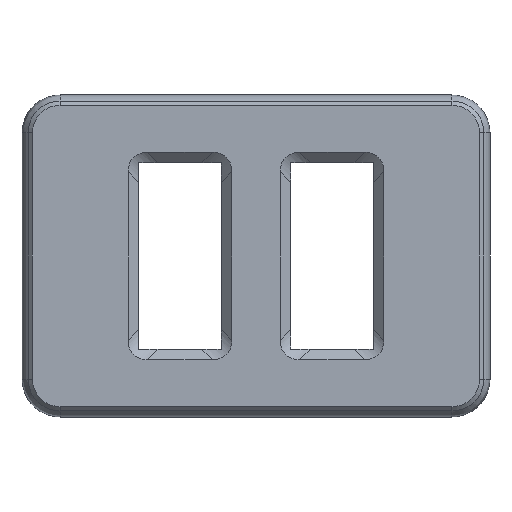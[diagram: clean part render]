
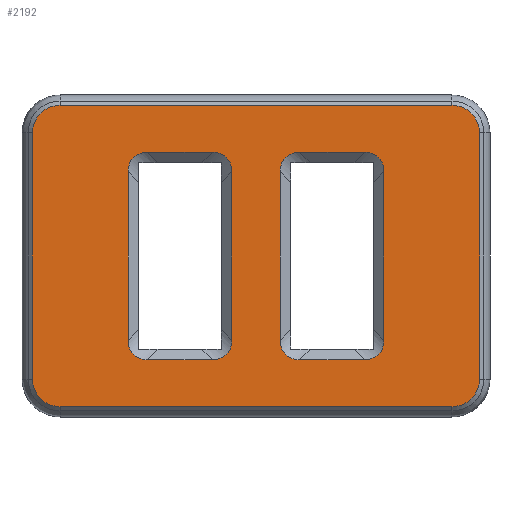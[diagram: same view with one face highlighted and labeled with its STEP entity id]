
A CAD part, front view. The second image highlights one B-rep face of the part: STEP entity #2192.
In plain terms, the highlighted planar face has unit normal (0, -1, 0).
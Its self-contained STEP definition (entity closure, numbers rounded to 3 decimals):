
#31=FACE_BOUND('',#307,.T.);
#32=FACE_BOUND('',#308,.T.);
#36=CIRCLE('',#2354,2.);
#37=CIRCLE('',#2355,2.);
#38=CIRCLE('',#2356,2.);
#39=CIRCLE('',#2357,2.);
#86=PLANE('',#2353);
#181=FACE_OUTER_BOUND('',#306,.T.);
#306=EDGE_LOOP('',(#1552,#1553,#1554,#1555,#1556,#1557,#1558,#1559));
#307=EDGE_LOOP('',(#1560,#1561,#1562,#1563,#1564,#1565,#1566,#1567));
#308=EDGE_LOOP('',(#1568,#1569,#1570,#1571,#1572,#1573,#1574,#1575));
#428=LINE('',#3172,#686);
#434=LINE('',#3189,#692);
#439=LINE('',#3206,#697);
#441=LINE('',#3214,#699);
#447=LINE('',#3228,#705);
#448=LINE('',#3232,#706);
#449=LINE('',#3236,#707);
#450=LINE('',#3240,#708);
#451=LINE('',#3244,#709);
#452=LINE('',#3248,#710);
#453=LINE('',#3252,#711);
#454=LINE('',#3256,#712);
#686=VECTOR('',#2534,10.);
#692=VECTOR('',#2550,10.);
#697=VECTOR('',#2565,10.);
#699=VECTOR('',#2577,10.);
#705=VECTOR('',#2589,10.);
#706=VECTOR('',#2592,10.);
#707=VECTOR('',#2595,10.);
#708=VECTOR('',#2598,10.);
#709=VECTOR('',#2601,10.);
#710=VECTOR('',#2604,10.);
#711=VECTOR('',#2607,10.);
#712=VECTOR('',#2610,10.);
#943=ELLIPSE('',#2333,3.464,2.);
#946=ELLIPSE('',#2338,3.464,2.);
#949=ELLIPSE('',#2343,3.464,2.);
#952=ELLIPSE('',#2348,3.464,2.);
#954=ELLIPSE('',#2358,3.464,2.);
#955=ELLIPSE('',#2359,3.464,2.);
#956=ELLIPSE('',#2360,3.464,2.);
#957=ELLIPSE('',#2361,3.464,2.);
#968=VERTEX_POINT('',#3163);
#969=VERTEX_POINT('',#3165);
#971=VERTEX_POINT('',#3171);
#975=VERTEX_POINT('',#3180);
#976=VERTEX_POINT('',#3182);
#980=VERTEX_POINT('',#3194);
#981=VERTEX_POINT('',#3196);
#984=VERTEX_POINT('',#3204);
#989=VERTEX_POINT('',#3226);
#990=VERTEX_POINT('',#3227);
#991=VERTEX_POINT('',#3229);
#992=VERTEX_POINT('',#3231);
#993=VERTEX_POINT('',#3233);
#994=VERTEX_POINT('',#3235);
#995=VERTEX_POINT('',#3237);
#996=VERTEX_POINT('',#3239);
#997=VERTEX_POINT('',#3242);
#998=VERTEX_POINT('',#3243);
#999=VERTEX_POINT('',#3245);
#1000=VERTEX_POINT('',#3247);
#1001=VERTEX_POINT('',#3249);
#1002=VERTEX_POINT('',#3251);
#1003=VERTEX_POINT('',#3253);
#1004=VERTEX_POINT('',#3255);
#1180=EDGE_CURVE('',#968,#969,#943,.T.);
#1183=EDGE_CURVE('',#969,#971,#428,.T.);
#1188=EDGE_CURVE('',#975,#976,#946,.T.);
#1192=EDGE_CURVE('',#976,#968,#434,.T.);
#1195=EDGE_CURVE('',#980,#981,#949,.T.);
#1200=EDGE_CURVE('',#984,#980,#439,.T.);
#1202=EDGE_CURVE('',#971,#984,#952,.T.);
#1205=EDGE_CURVE('',#981,#975,#441,.T.);
#1211=EDGE_CURVE('',#989,#990,#447,.T.);
#1212=EDGE_CURVE('',#991,#989,#36,.T.);
#1213=EDGE_CURVE('',#992,#991,#448,.T.);
#1214=EDGE_CURVE('',#993,#992,#37,.T.);
#1215=EDGE_CURVE('',#994,#993,#449,.T.);
#1216=EDGE_CURVE('',#995,#994,#38,.T.);
#1217=EDGE_CURVE('',#996,#995,#450,.T.);
#1218=EDGE_CURVE('',#990,#996,#39,.T.);
#1219=EDGE_CURVE('',#997,#998,#451,.T.);
#1220=EDGE_CURVE('',#999,#997,#954,.T.);
#1221=EDGE_CURVE('',#1000,#999,#452,.T.);
#1222=EDGE_CURVE('',#1001,#1000,#955,.T.);
#1223=EDGE_CURVE('',#1002,#1001,#453,.T.);
#1224=EDGE_CURVE('',#1003,#1002,#956,.T.);
#1225=EDGE_CURVE('',#1004,#1003,#454,.T.);
#1226=EDGE_CURVE('',#998,#1004,#957,.T.);
#1552=ORIENTED_EDGE('',*,*,#1211,.F.);
#1553=ORIENTED_EDGE('',*,*,#1212,.F.);
#1554=ORIENTED_EDGE('',*,*,#1213,.F.);
#1555=ORIENTED_EDGE('',*,*,#1214,.F.);
#1556=ORIENTED_EDGE('',*,*,#1215,.F.);
#1557=ORIENTED_EDGE('',*,*,#1216,.F.);
#1558=ORIENTED_EDGE('',*,*,#1217,.F.);
#1559=ORIENTED_EDGE('',*,*,#1218,.F.);
#1560=ORIENTED_EDGE('',*,*,#1219,.F.);
#1561=ORIENTED_EDGE('',*,*,#1220,.F.);
#1562=ORIENTED_EDGE('',*,*,#1221,.F.);
#1563=ORIENTED_EDGE('',*,*,#1222,.F.);
#1564=ORIENTED_EDGE('',*,*,#1223,.F.);
#1565=ORIENTED_EDGE('',*,*,#1224,.F.);
#1566=ORIENTED_EDGE('',*,*,#1225,.F.);
#1567=ORIENTED_EDGE('',*,*,#1226,.F.);
#1568=ORIENTED_EDGE('',*,*,#1205,.F.);
#1569=ORIENTED_EDGE('',*,*,#1195,.F.);
#1570=ORIENTED_EDGE('',*,*,#1200,.F.);
#1571=ORIENTED_EDGE('',*,*,#1202,.F.);
#1572=ORIENTED_EDGE('',*,*,#1183,.F.);
#1573=ORIENTED_EDGE('',*,*,#1180,.F.);
#1574=ORIENTED_EDGE('',*,*,#1192,.F.);
#1575=ORIENTED_EDGE('',*,*,#1188,.F.);
#2192=ADVANCED_FACE('',(#181,#31,#32),#86,.F.);
#2333=AXIS2_PLACEMENT_3D('',#3166,#2527,#2528);
#2338=AXIS2_PLACEMENT_3D('',#3183,#2542,#2543);
#2343=AXIS2_PLACEMENT_3D('',#3197,#2556,#2557);
#2348=AXIS2_PLACEMENT_3D('',#3210,#2570,#2571);
#2353=AXIS2_PLACEMENT_3D('',#3225,#2587,#2588);
#2354=AXIS2_PLACEMENT_3D('',#3230,#2590,#2591);
#2355=AXIS2_PLACEMENT_3D('',#3234,#2593,#2594);
#2356=AXIS2_PLACEMENT_3D('',#3238,#2596,#2597);
#2357=AXIS2_PLACEMENT_3D('',#3241,#2599,#2600);
#2358=AXIS2_PLACEMENT_3D('',#3246,#2602,#2603);
#2359=AXIS2_PLACEMENT_3D('',#3250,#2605,#2606);
#2360=AXIS2_PLACEMENT_3D('',#3254,#2608,#2609);
#2361=AXIS2_PLACEMENT_3D('',#3257,#2611,#2612);
#2527=DIRECTION('center_axis',(0.,-1.,0.));
#2528=DIRECTION('ref_axis',(0.707,0.,-0.707));
#2534=DIRECTION('',(0.,0.,1.));
#2542=DIRECTION('center_axis',(0.,-1.,0.));
#2543=DIRECTION('ref_axis',(-0.707,0.,-0.707));
#2550=DIRECTION('',(1.,0.,0.));
#2556=DIRECTION('center_axis',(0.,-1.,0.));
#2557=DIRECTION('ref_axis',(-0.707,0.,0.707));
#2565=DIRECTION('',(-1.,0.,0.));
#2570=DIRECTION('center_axis',(0.,-1.,0.));
#2571=DIRECTION('ref_axis',(0.707,0.,0.707));
#2577=DIRECTION('',(0.,0.,-1.));
#2587=DIRECTION('center_axis',(0.,1.,0.));
#2588=DIRECTION('ref_axis',(0.,0.,1.));
#2589=DIRECTION('',(-1.,0.,0.));
#2590=DIRECTION('center_axis',(0.,1.,0.));
#2591=DIRECTION('ref_axis',(0.,0.,-1.));
#2592=DIRECTION('',(0.,0.,-1.));
#2593=DIRECTION('center_axis',(0.,1.,0.));
#2594=DIRECTION('ref_axis',(0.,0.,1.));
#2595=DIRECTION('',(1.,0.,0.));
#2596=DIRECTION('center_axis',(0.,1.,0.));
#2597=DIRECTION('ref_axis',(0.,0.,1.));
#2598=DIRECTION('',(0.,0.,1.));
#2599=DIRECTION('center_axis',(0.,1.,0.));
#2600=DIRECTION('ref_axis',(0.,0.,-1.));
#2601=DIRECTION('',(0.,0.,-1.));
#2602=DIRECTION('center_axis',(0.,-1.,0.));
#2603=DIRECTION('ref_axis',(-0.707,0.,0.707));
#2604=DIRECTION('',(-1.,0.,0.));
#2605=DIRECTION('center_axis',(0.,-1.,0.));
#2606=DIRECTION('ref_axis',(0.707,0.,0.707));
#2607=DIRECTION('',(0.,0.,1.));
#2608=DIRECTION('center_axis',(0.,-1.,0.));
#2609=DIRECTION('ref_axis',(0.707,0.,-0.707));
#2610=DIRECTION('',(1.,0.,0.));
#2611=DIRECTION('center_axis',(0.,-1.,0.));
#2612=DIRECTION('ref_axis',(-0.707,0.,-0.707));
#3163=CARTESIAN_POINT('',(-3.164,-1.85,-7.5));
#3165=CARTESIAN_POINT('',(-1.75,-1.85,-6.086));
#3166=CARTESIAN_POINT('Origin',(-4.578,-1.85,-4.672));
#3171=CARTESIAN_POINT('',(-1.75,-1.85,6.086));
#3172=CARTESIAN_POINT('',(-1.75,-1.85,6.288));
#3180=CARTESIAN_POINT('',(-9.25,-1.85,-6.086));
#3182=CARTESIAN_POINT('',(-7.836,-1.85,-7.5));
#3183=CARTESIAN_POINT('Origin',(-6.422,-1.85,-4.672));
#3189=CARTESIAN_POINT('',(2.981,-1.85,-7.5));
#3194=CARTESIAN_POINT('',(-7.836,-1.85,7.5));
#3196=CARTESIAN_POINT('',(-9.25,-1.85,6.086));
#3197=CARTESIAN_POINT('Origin',(-6.422,-1.85,4.672));
#3204=CARTESIAN_POINT('',(-3.164,-1.85,7.5));
#3206=CARTESIAN_POINT('',(-0.019,-1.85,7.5));
#3210=CARTESIAN_POINT('Origin',(-4.578,-1.85,4.672));
#3214=CARTESIAN_POINT('',(-9.25,-1.85,-0.462));
#3225=CARTESIAN_POINT('Origin',(8.463,-1.85,5.825));
#3226=CARTESIAN_POINT('',(14.175,-1.85,-10.9));
#3227=CARTESIAN_POINT('',(-14.175,-1.85,-10.9));
#3228=CARTESIAN_POINT('',(11.319,-1.85,-10.9));
#3229=CARTESIAN_POINT('',(16.175,-1.85,-8.9));
#3230=CARTESIAN_POINT('Origin',(14.175,-1.85,-8.9));
#3231=CARTESIAN_POINT('',(16.175,-1.85,8.9));
#3232=CARTESIAN_POINT('',(16.175,-1.85,2.913));
#3233=CARTESIAN_POINT('',(14.175,-1.85,10.9));
#3234=CARTESIAN_POINT('Origin',(14.175,-1.85,8.9));
#3235=CARTESIAN_POINT('',(-14.175,-1.85,10.9));
#3236=CARTESIAN_POINT('',(11.319,-1.85,10.9));
#3237=CARTESIAN_POINT('',(-16.175,-1.85,8.9));
#3238=CARTESIAN_POINT('Origin',(-14.175,-1.85,8.9));
#3239=CARTESIAN_POINT('',(-16.175,-1.85,-8.9));
#3240=CARTESIAN_POINT('',(-16.175,-1.85,2.913));
#3241=CARTESIAN_POINT('Origin',(-14.175,-1.85,-8.9));
#3242=CARTESIAN_POINT('',(1.75,-1.85,6.086));
#3243=CARTESIAN_POINT('',(1.75,-1.85,-6.086));
#3244=CARTESIAN_POINT('',(1.75,-1.85,6.288));
#3245=CARTESIAN_POINT('',(3.164,-1.85,7.5));
#3246=CARTESIAN_POINT('Origin',(4.578,-1.85,4.672));
#3247=CARTESIAN_POINT('',(7.836,-1.85,7.5));
#3248=CARTESIAN_POINT('',(8.481,-1.85,7.5));
#3249=CARTESIAN_POINT('',(9.25,-1.85,6.086));
#3250=CARTESIAN_POINT('Origin',(6.422,-1.85,4.672));
#3251=CARTESIAN_POINT('',(9.25,-1.85,-6.086));
#3252=CARTESIAN_POINT('',(9.25,-1.85,-0.462));
#3253=CARTESIAN_POINT('',(7.836,-1.85,-7.5));
#3254=CARTESIAN_POINT('Origin',(6.422,-1.85,-4.672));
#3255=CARTESIAN_POINT('',(3.164,-1.85,-7.5));
#3256=CARTESIAN_POINT('',(5.481,-1.85,-7.5));
#3257=CARTESIAN_POINT('Origin',(4.578,-1.85,-4.672));
